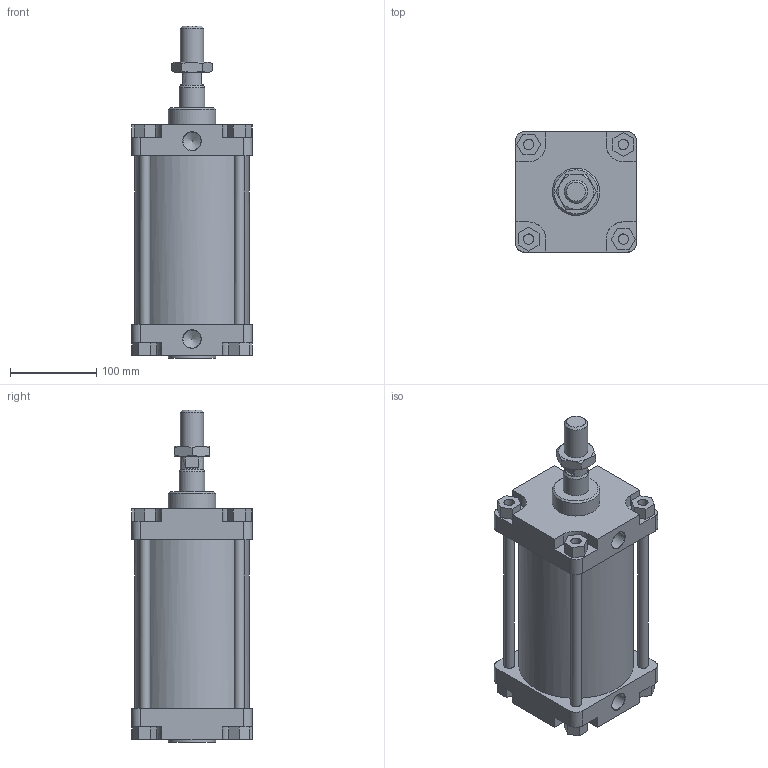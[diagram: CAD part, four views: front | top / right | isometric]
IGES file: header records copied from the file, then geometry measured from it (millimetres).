
Global section: file name: 1305_125_0100_01A; native system: Autodesk Inventor 2014; preprocessor: unknown; author: A. Manieri; date: 20161124.143216; units: millimetre
Bounding box: 140 x 140 x 386 mm (x, y, z)
Volume: 3066285.9 mm3; surface area: 427458 mm2
Topology: 9 solids, 9 shells, 175 faces, 440 edges, 295 vertices
Faces by surface type: bspline 175
